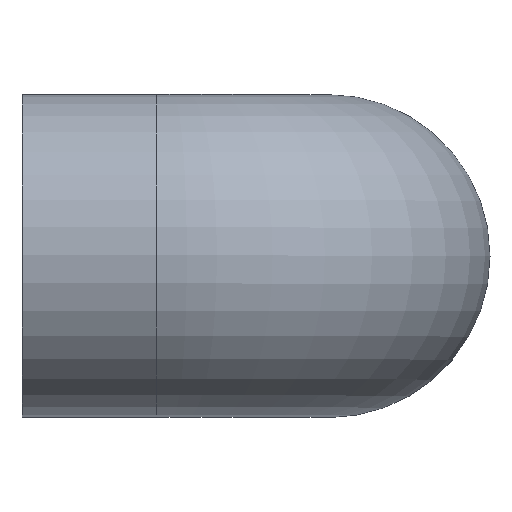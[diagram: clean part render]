
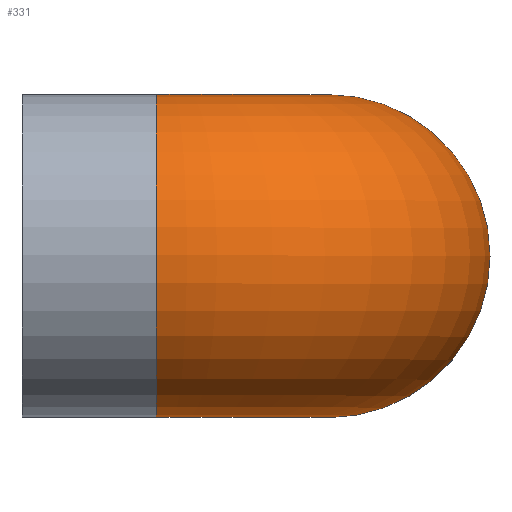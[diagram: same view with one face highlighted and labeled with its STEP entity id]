
A CAD part, top view. The second image highlights one B-rep face of the part: STEP entity #331.
In plain terms, the highlighted toroidal (fillet/blend) face has major radius 32 mm and minor radius 30 mm.
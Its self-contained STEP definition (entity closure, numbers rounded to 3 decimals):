
#19=FACE_BOUND('',#92,.T.);
#24=TOROIDAL_SURFACE('',#357,32.,30.);
#65=FACE_OUTER_BOUND('',#91,.T.);
#91=EDGE_LOOP('',(#287));
#92=EDGE_LOOP('',(#288));
#110=CIRCLE('',#356,30.);
#111=CIRCLE('',#358,30.);
#164=VERTEX_POINT('',#8012);
#165=VERTEX_POINT('',#8015);
#208=EDGE_CURVE('',#164,#164,#110,.T.);
#209=EDGE_CURVE('',#165,#165,#111,.T.);
#287=ORIENTED_EDGE('',*,*,#208,.F.);
#288=ORIENTED_EDGE('',*,*,#209,.T.);
#331=ADVANCED_FACE('',(#65,#19),#24,.T.);
#356=AXIS2_PLACEMENT_3D('',#8013,#409,#410);
#357=AXIS2_PLACEMENT_3D('',#8014,#411,#412);
#358=AXIS2_PLACEMENT_3D('',#8016,#413,#414);
#409=DIRECTION('center_axis',(-1.,0.,0.));
#410=DIRECTION('ref_axis',(0.,0.,-1.));
#411=DIRECTION('center_axis',(0.,-1.,0.));
#412=DIRECTION('ref_axis',(0.,0.,-1.));
#413=DIRECTION('center_axis',(0.,0.,1.));
#414=DIRECTION('ref_axis',(-1.,0.,0.));
#8012=CARTESIAN_POINT('',(-32.,0.,87.));
#8013=CARTESIAN_POINT('Origin',(-32.,0.,57.));
#8014=CARTESIAN_POINT('Origin',(-32.,0.,25.));
#8015=CARTESIAN_POINT('',(30.,0.,25.));
#8016=CARTESIAN_POINT('Origin',(0.,0.,25.));
